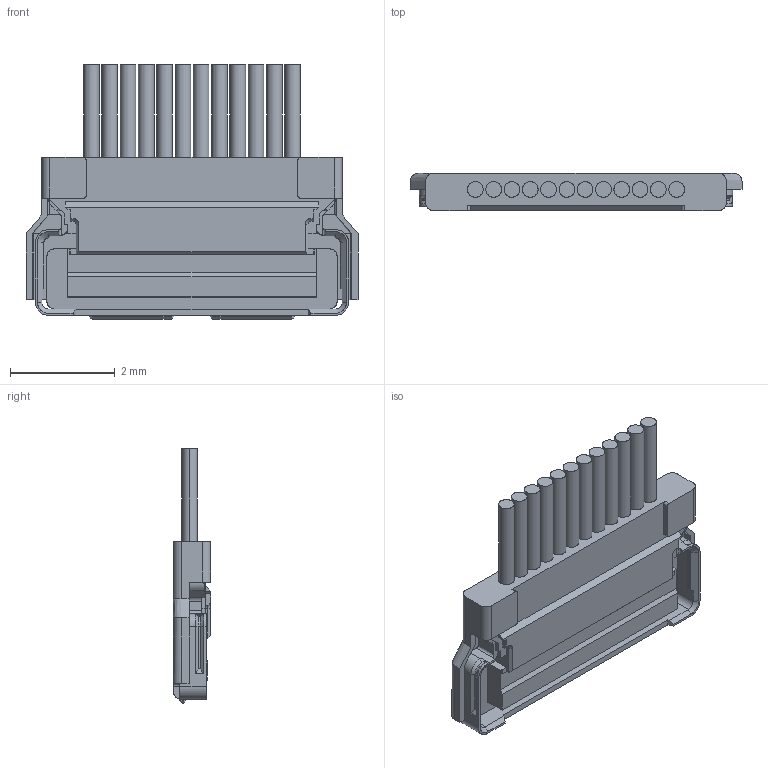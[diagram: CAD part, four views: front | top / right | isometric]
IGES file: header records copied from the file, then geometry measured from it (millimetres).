
Start section: SolidWorks IGES file using analytic representation for surfaces
Bounding box: 6.35 x 0.71 x 4.88 mm (x, y, z)
Surface area: 78.5 mm2 (no closed solid volume)
Topology: 0 solids, 0 shells, 315 faces, 2252 edges, 2252 vertices
Faces by surface type: bspline 206, revolution 109
